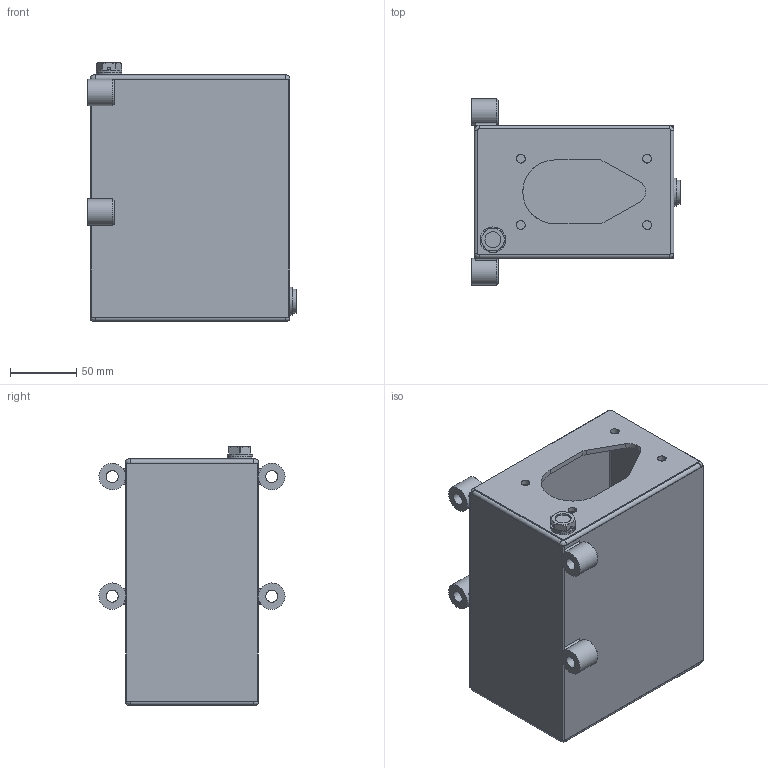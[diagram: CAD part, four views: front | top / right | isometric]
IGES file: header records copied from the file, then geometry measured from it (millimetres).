
Global section: file name: 6500.0268; native system: Autodesk Inventor 2026; preprocessor: unknown; author: christian.scardovi; date: 20251103.080526; units: millimetre
Bounding box: 157 x 139.98 x 194.4 mm (x, y, z)
Volume: 376974.8 mm3; surface area: 255709.1 mm2
Topology: 21 solids, 21 shells, 211 faces, 487 edges, 317 vertices
Faces by surface type: bspline 211
